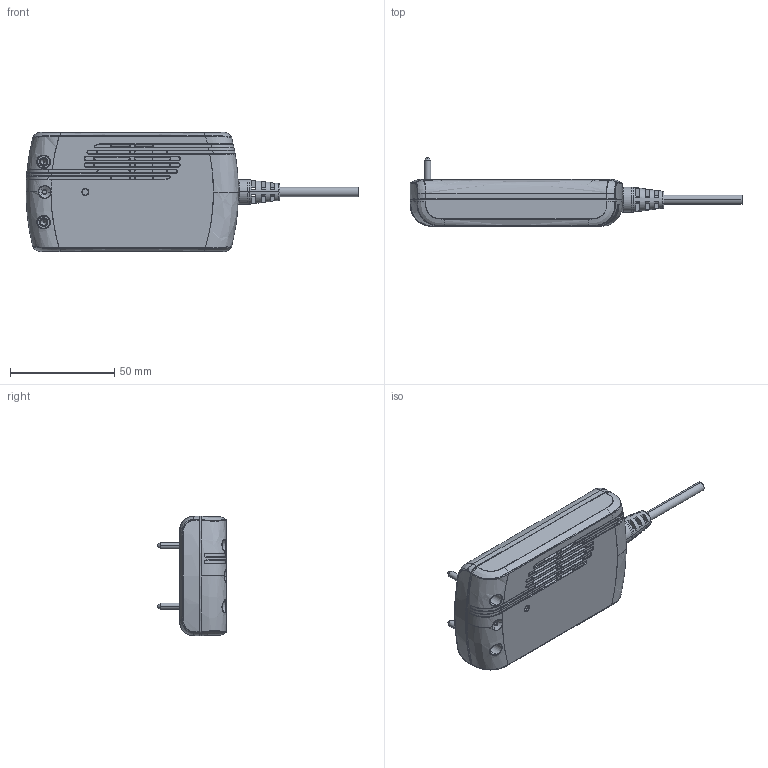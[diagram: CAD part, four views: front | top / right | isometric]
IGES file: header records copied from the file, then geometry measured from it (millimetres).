
Start section: SolidWorks IGES file using analytic representation for surfaces
Global section: file name: C:\Users\USER\Desktop\jb50-0324.IGS; native system: SolidWorks 2020; preprocessor: SolidWorks 2020; author: USER; date: 240221.104202; units: millimetre
Bounding box: 159.4 x 33.24 x 57.5 mm (x, y, z)
Surface area: 20611.7 mm2 (no closed solid volume)
Topology: 0 solids, 0 shells, 413 faces, 4150 edges, 4134 vertices
Faces by surface type: bspline 338, revolution 75
